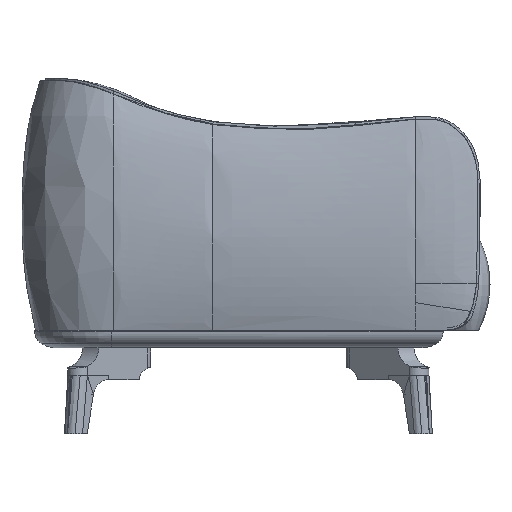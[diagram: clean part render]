
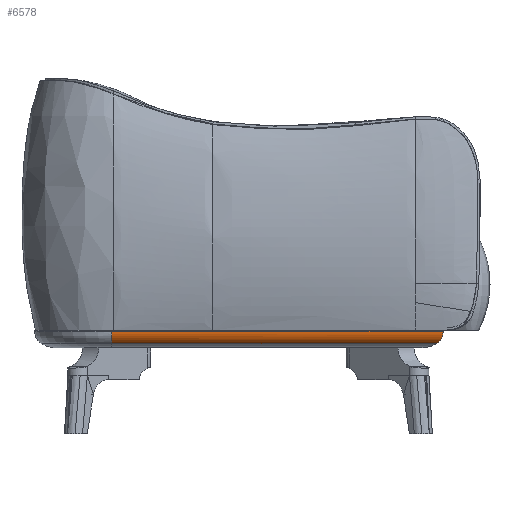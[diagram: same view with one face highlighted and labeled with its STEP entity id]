
A CAD part, left-side view. The second image highlights one B-rep face of the part: STEP entity #6578.
In plain terms, the highlighted cylindrical face has radius 32 mm (diameter 64 mm), a partial arc.
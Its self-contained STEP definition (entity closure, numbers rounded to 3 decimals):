
#127=ELLIPSE('',#7046,45.255,32.);
#160=CYLINDRICAL_SURFACE('',#7045,32.);
#316=CIRCLE('',#7033,32.);
#317=CIRCLE('',#7035,32.);
#629=LINE('',#29276,#1081);
#630=LINE('',#29277,#1082);
#1081=VECTOR('',#7730,10.);
#1082=VECTOR('',#7731,10.);
#1668=FACE_OUTER_BOUND('',#2092,.T.);
#2092=EDGE_LOOP('',(#4565,#4566,#4567,#4568,#4569));
#2847=VERTEX_POINT('',#29240);
#2852=VERTEX_POINT('',#29251);
#2853=VERTEX_POINT('',#29255);
#2859=VERTEX_POINT('',#29273);
#2860=VERTEX_POINT('',#29274);
#3503=EDGE_CURVE('',#2852,#2847,#316,.T.);
#3504=EDGE_CURVE('',#2853,#2852,#317,.T.);
#3513=EDGE_CURVE('',#2859,#2860,#127,.T.);
#3514=EDGE_CURVE('',#2860,#2847,#629,.T.);
#3515=EDGE_CURVE('',#2853,#2859,#630,.T.);
#4565=ORIENTED_EDGE('',*,*,#3513,.T.);
#4566=ORIENTED_EDGE('',*,*,#3514,.T.);
#4567=ORIENTED_EDGE('',*,*,#3503,.F.);
#4568=ORIENTED_EDGE('',*,*,#3504,.F.);
#4569=ORIENTED_EDGE('',*,*,#3515,.T.);
#6578=ADVANCED_FACE('',(#1668),#160,.T.);
#7033=AXIS2_PLACEMENT_3D('',#29253,#7701,#7702);
#7035=AXIS2_PLACEMENT_3D('',#29256,#7705,#7706);
#7045=AXIS2_PLACEMENT_3D('',#29272,#7726,#7727);
#7046=AXIS2_PLACEMENT_3D('',#29275,#7728,#7729);
#7701=DIRECTION('center_axis',(0.,1.,0.));
#7702=DIRECTION('ref_axis',(-1.,0.,0.013));
#7705=DIRECTION('center_axis',(0.,1.,0.));
#7706=DIRECTION('ref_axis',(-1.,0.,0.));
#7726=DIRECTION('center_axis',(0.,-1.,0.));
#7727=DIRECTION('ref_axis',(-1.,0.,0.));
#7728=DIRECTION('center_axis',(-0.707,0.707,0.));
#7729=DIRECTION('ref_axis',(-0.707,-0.707,0.));
#7730=DIRECTION('',(0.,1.,0.));
#7731=DIRECTION('',(0.,-1.,0.));
#29240=CARTESIAN_POINT('',(281.603,3091.291,238.986));
#29251=CARTESIAN_POINT('',(281.601,3091.291,238.584));
#29253=CARTESIAN_POINT('Origin',(313.601,3091.291,238.584));
#29255=CARTESIAN_POINT('',(296.043,3091.291,211.831));
#29256=CARTESIAN_POINT('Origin',(313.601,3091.291,238.584));
#29272=CARTESIAN_POINT('Origin',(313.601,2296.417,238.584));
#29273=CARTESIAN_POINT('',(296.043,2383.229,211.831));
#29274=CARTESIAN_POINT('',(281.603,2368.79,238.986));
#29275=CARTESIAN_POINT('Origin',(313.601,2400.787,238.584));
#29276=CARTESIAN_POINT('',(281.603,2368.79,238.986));
#29277=CARTESIAN_POINT('',(296.043,3091.291,211.831));
